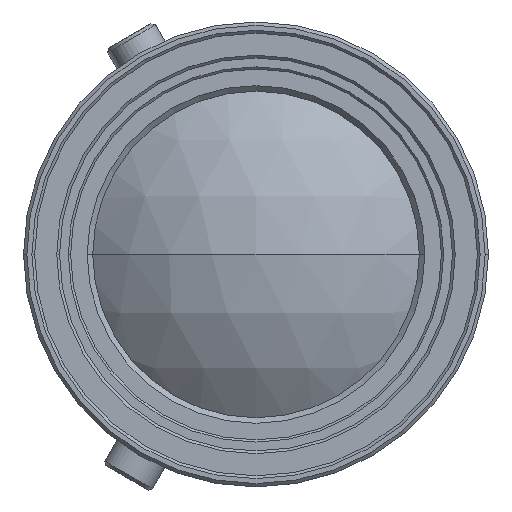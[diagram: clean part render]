
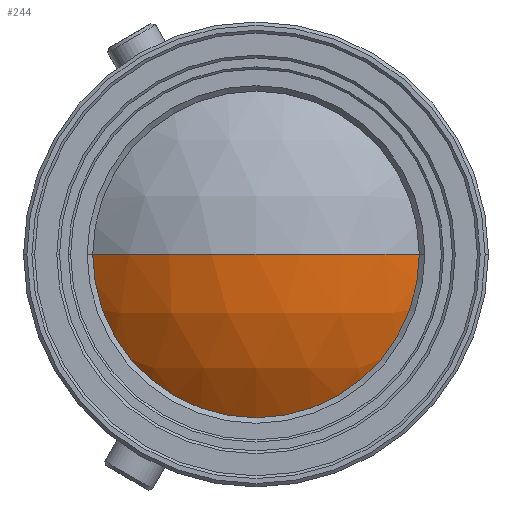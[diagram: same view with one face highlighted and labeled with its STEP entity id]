
A CAD part, left-side view. The second image highlights one B-rep face of the part: STEP entity #244.
In plain terms, the highlighted spherical face has radius 23 mm.
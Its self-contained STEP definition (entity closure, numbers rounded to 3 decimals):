
#35 = ORIENTED_EDGE ( 'NONE', *, *, #86, .T. ) ;
#86 = EDGE_CURVE ( 'NONE', #868, #1512, #2286, .T. ) ;
#121 = VERTEX_POINT ( 'NONE', #2575 ) ;
#141 = DIRECTION ( 'NONE',  ( 0., 1., 0. ) ) ;
#197 = CIRCLE ( 'NONE', #1369, 23. ) ;
#244 = ADVANCED_FACE ( 'NONE', ( #567 ), #1621, .T. ) ;
#278 = AXIS2_PLACEMENT_3D ( 'NONE', #1659, #2627, #141 ) ;
#463 = EDGE_LOOP ( 'NONE', ( #35, #2807, #2633 ) ) ;
#489 = AXIS2_PLACEMENT_3D ( 'NONE', #2432, #1002, #2734 ) ;
#567 = FACE_OUTER_BOUND ( 'NONE', #463, .T. ) ;
#588 = CARTESIAN_POINT ( 'NONE',  ( -51.149, 0., 0. ) ) ;
#842 = AXIS2_PLACEMENT_3D ( 'NONE', #2817, #1335, #3062 ) ;
#851 = DIRECTION ( 'NONE',  ( 1., 0., 0. ) ) ;
#868 = VERTEX_POINT ( 'NONE', #3009 ) ;
#1002 = DIRECTION ( 'NONE',  ( 0., 0., -1. ) ) ;
#1217 = EDGE_CURVE ( 'NONE', #868, #121, #197, .T. ) ;
#1335 = DIRECTION ( 'NONE',  ( -1., 0., 0. ) ) ;
#1369 = AXIS2_PLACEMENT_3D ( 'NONE', #588, #2334, #851 ) ;
#1512 = VERTEX_POINT ( 'NONE', #3228 ) ;
#1621 = SPHERICAL_SURFACE ( 'NONE', #278, 23. ) ;
#1659 = CARTESIAN_POINT ( 'NONE',  ( -51.149, 0., 0. ) ) ;
#2189 = CIRCLE ( 'NONE', #489, 23. ) ;
#2272 = EDGE_CURVE ( 'NONE', #1512, #121, #2189, .T. ) ;
#2286 = CIRCLE ( 'NONE', #842, 14.75 ) ;
#2334 = DIRECTION ( 'NONE',  ( 0., 0., 1. ) ) ;
#2432 = CARTESIAN_POINT ( 'NONE',  ( -51.149, 0., 0. ) ) ;
#2575 = CARTESIAN_POINT ( 'NONE',  ( -74.149, 0., 0. ) ) ;
#2627 = DIRECTION ( 'NONE',  ( 0., 0., -1. ) ) ;
#2633 = ORIENTED_EDGE ( 'NONE', *, *, #1217, .F. ) ;
#2734 = DIRECTION ( 'NONE',  ( 0., 1., 0. ) ) ;
#2807 = ORIENTED_EDGE ( 'NONE', *, *, #2272, .T. ) ;
#2817 = CARTESIAN_POINT ( 'NONE',  ( -68.797, 0., 0. ) ) ;
#3009 = CARTESIAN_POINT ( 'NONE',  ( -68.797, 14.75, 0. ) ) ;
#3062 = DIRECTION ( 'NONE',  ( 0., -1., 0. ) ) ;
#3228 = CARTESIAN_POINT ( 'NONE',  ( -68.797, -14.75, 0. ) ) ;
